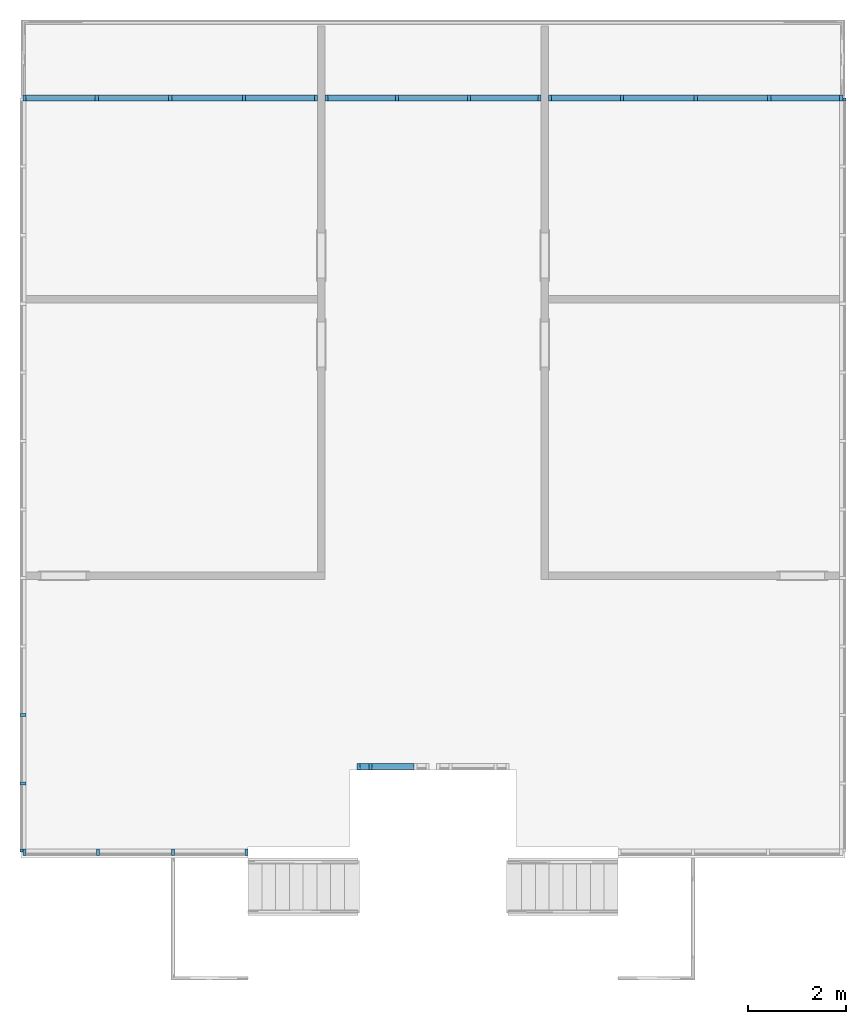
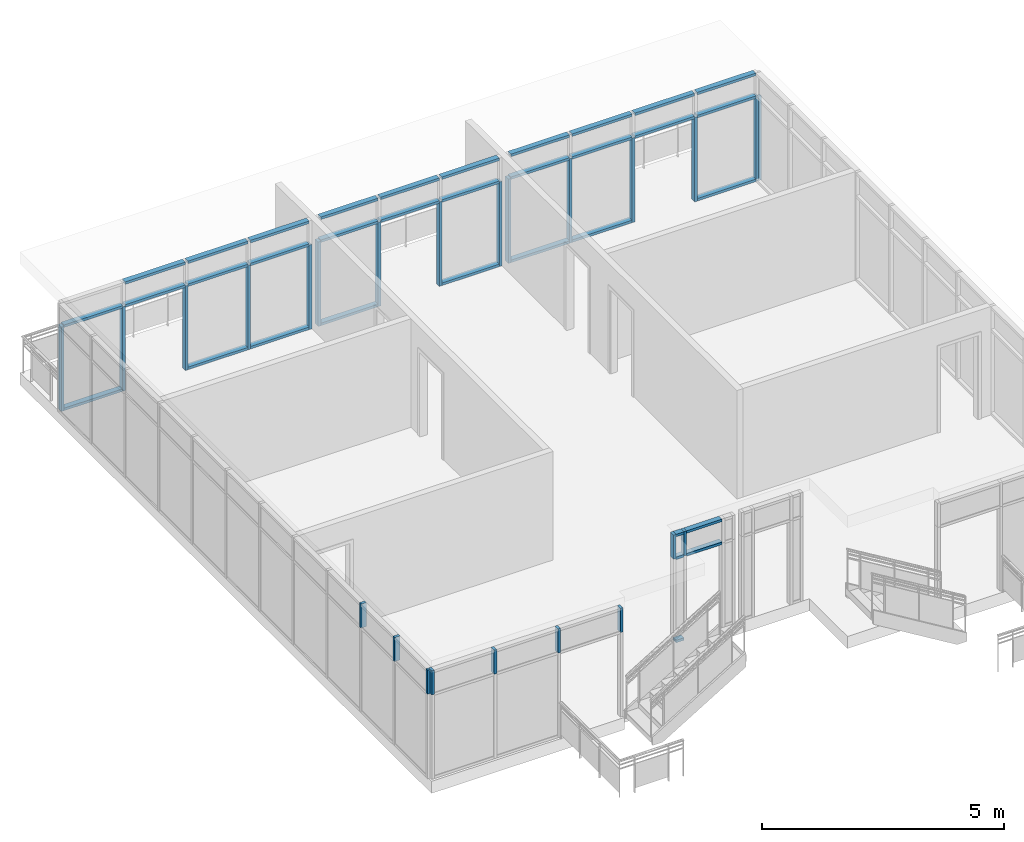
# One storey, part 3 of 11: 58 members, 7 elements without a shape of their own.
"""IFC2X3 building model written with IfcOpenShell, lengths in feet."""

from ifc_helpers import new_model, entity, si_unit, converted_unit, derived_unit, direction, frame, origin, origin_2d_with_axis, place, context, subcontext, project, spatial, rectangle, extrude, source, transform, mapped, material, type_object, type_shapes, element, aggregate, save


model = new_model("IFC2X3")

# Units and contexts
model_context = context("Model", 3, precision=0.0001, world=origin(), true_north=direction((6.12303176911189e-17, 1.0)))
body_context = subcontext(model_context, "Body", "Model", "MODEL_VIEW")
ifc_project = project(units=[converted_unit("LENGTHUNIT", "FOOT", entity("IfcRatioMeasure", 0.3048), si_unit("LENGTHUNIT", "METRE"), dimensions=[1, 0, 0, 0, 0, 0, 0]), converted_unit("AREAUNIT", "SQUARE FOOT", entity("IfcRatioMeasure", 0.09290304), si_unit("AREAUNIT", "SQUARE_METRE"), dimensions=[2, 0, 0, 0, 0, 0, 0]), converted_unit("VOLUMEUNIT", "CUBIC FOOT", entity("IfcRatioMeasure", 0.028316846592), si_unit("VOLUMEUNIT", "CUBIC_METRE"), dimensions=[3, 0, 0, 0, 0, 0, 0]), converted_unit("PLANEANGLEUNIT", "DEGREE", entity("IfcRatioMeasure", 0.0174532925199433), si_unit("PLANEANGLEUNIT", "RADIAN"), dimensions=[0, 0, 0, 0, 0, 0, 0]), si_unit("MASSUNIT", "GRAM", prefix="KILO"), derived_unit("MASSDENSITYUNIT", [(si_unit("MASSUNIT", "GRAM", prefix="KILO"), 1), (si_unit("LENGTHUNIT", "METRE"), -3)]), si_unit("TIMEUNIT", "SECOND"), si_unit("FREQUENCYUNIT", "HERTZ"), si_unit("THERMODYNAMICTEMPERATUREUNIT", "DEGREE_CELSIUS"), derived_unit("THERMALTRANSMITTANCEUNIT", [(si_unit("MASSUNIT", "GRAM", prefix="KILO"), 1), (si_unit("THERMODYNAMICTEMPERATUREUNIT", "KELVIN"), -1), (si_unit("TIMEUNIT", "SECOND"), -3)]), derived_unit("VOLUMETRICFLOWRATEUNIT", [(si_unit("LENGTHUNIT", "METRE"), 3), (si_unit("TIMEUNIT", "SECOND"), -1)]), si_unit("ELECTRICCURRENTUNIT", "AMPERE"), si_unit("ELECTRICVOLTAGEUNIT", "VOLT"), si_unit("POWERUNIT", "WATT"), si_unit("FORCEUNIT", "NEWTON"), si_unit("ILLUMINANCEUNIT", "LUX"), si_unit("LUMINOUSFLUXUNIT", "LUMEN"), si_unit("LUMINOUSINTENSITYUNIT", "CANDELA"), derived_unit("USERDEFINED", [(si_unit("MASSUNIT", "GRAM", prefix="KILO"), -1), (si_unit("LENGTHUNIT", "METRE"), -2), (si_unit("TIMEUNIT", "SECOND"), 3), (si_unit("LUMINOUSFLUXUNIT", "LUMEN"), 1)]), derived_unit("LINEARVELOCITYUNIT", [(si_unit("LENGTHUNIT", "METRE"), 1), (si_unit("TIMEUNIT", "SECOND"), -1)]), si_unit("PRESSUREUNIT", "PASCAL"), derived_unit("USERDEFINED", [(si_unit("LENGTHUNIT", "METRE"), -2), (si_unit("MASSUNIT", "GRAM", prefix="KILO"), 1), (si_unit("TIMEUNIT", "SECOND"), -2)])], contexts=[model_context])

# Site, building, storey
site_placement = place(None, origin())
site = spatial("IfcSite", under=ifc_project, at=site_placement, Name="Default", CompositionType="ELEMENT")
building_placement = place(site_placement, origin())
building = spatial("IfcBuilding", under=site, at=building_placement, CompositionType="ELEMENT")
storey_placement = place(building_placement, frame((0.0, 0.0, 50.0)))
storey = spatial("IfcBuildingStorey", under=building, at=storey_placement, Name="L 9", CompositionType="ELEMENT", Elevation=49.9999999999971)

# Curtain wall, member
curtain_wall_type = type_object("IfcCurtainWallType", Name="Curtain Wall:Storefront 2", PredefinedType="NOTDEFINED")
curtain_wall_1_placement = place(storey_placement, frame((0.0, 0.0, -50.0)))
curtain_wall_1 = element("IfcCurtainWall", 1, at=curtain_wall_1_placement, inside=storey, type_object=curtain_wall_type, Name="Curtain Wall:Storefront 2", ObjectType="Curtain Wall:Storefront 2")
ifc_material = material(Name="Aluminum")
member_type_1 = type_object("IfcMemberType", Name="2.5\" x 5\" rectangular", PredefinedType="MEMBER")
shared_shape_1 = source(origin(), body_context, "Body", "SweptSolid", [
    extrude(rectangle(XDim=0.416666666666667, YDim=0.208333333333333, at=origin_2d_with_axis()), frame((-0.104166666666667, 0.0, -7.0), z_axis=(0.0, 0.0, 1.0), x_axis=(0.0, -1.0, 0.0)), (0.0, 0.0, 1.0), 7.0),
])
type_shapes(member_type_1, [shared_shape_1])
member_1_placement = place(storey_placement, frame((-41.6963748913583, 43.3505254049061, 0.0), z_axis=(0.0, 0.0, -1.0), x_axis=(1.0, 0.0, 0.0)))
member_1 = element("IfcMember", 2, at=member_1_placement, type_object=member_type_1, material=ifc_material, Name="Rectangular Mullion:2.5\" x 5\" rectangular", ObjectType="2.5\" x 5\" rectangular", context=body_context, shape_type="MappedRepresentation", body=[
    mapped(shared_shape_1, transform((0.0, 0.0, 0.0), scale=1.0)),
])

curtain_wall_2_placement = place(storey_placement, frame((0.0, 0.0, -50.0)))
curtain_wall_2 = element("IfcCurtainWall", 3, at=curtain_wall_2_placement, inside=storey, type_object=curtain_wall_type, Name="Curtain Wall:Storefront 2", ObjectType="Curtain Wall:Storefront 2")
member_2_placement = place(storey_placement, frame((-6.65849610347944, 43.350525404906, 0.0), z_axis=(0.0, 0.0, -1.0), x_axis=(1.0, 0.0, 0.0)))
member_2 = element("IfcMember", 4, at=member_2_placement, type_object=member_type_1, material=ifc_material, Name="Rectangular Mullion:2.5\" x 5\" rectangular", ObjectType="2.5\" x 5\" rectangular", context=body_context, shape_type="MappedRepresentation", body=[
    mapped(shared_shape_1, transform((0.0, 0.0, 0.0), scale=1.0)),
])

curtain_wall_3_placement = place(storey_placement, frame((0.0, 0.0, -50.0)))
curtain_wall_3 = element("IfcCurtainWall", 5, at=curtain_wall_3_placement, inside=storey, type_object=curtain_wall_type, Name="Curtain Wall:Storefront 2", ObjectType="Curtain Wall:Storefront 2")
member_3_placement = place(storey_placement, frame((-26.7872839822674, 43.350525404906, 0.0), z_axis=(0.0, 0.0, -1.0), x_axis=(1.0, 0.0, 0.0)))
member_3 = element("IfcMember", 6, at=member_3_placement, type_object=member_type_1, material=ifc_material, Name="Rectangular Mullion:2.5\" x 5\" rectangular", ObjectType="2.5\" x 5\" rectangular", context=body_context, shape_type="MappedRepresentation", body=[
    mapped(shared_shape_1, transform((0.0, 0.0, 0.0), scale=1.0)),
])

curtain_wall_4_placement = place(storey_placement, frame((0.0, 0.0, -50.0)))
curtain_wall_4 = element("IfcCurtainWall", 7, at=curtain_wall_4_placement, inside=storey, type_object=curtain_wall_type, Name="Curtain Wall:Storefront 2", ObjectType="Curtain Wall:Storefront 2")
member_type_2 = type_object("IfcMemberType", Name="2.5\" x 5\" rectangular", PredefinedType="MEMBER")
shared_shape_2 = source(origin(), body_context, "Body", "SweptSolid", [
    extrude(rectangle(XDim=0.416666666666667, YDim=0.208333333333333, at=origin_2d_with_axis()), frame((-0.104166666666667, 0.0, -2.0), z_axis=(0.0, 0.0, 1.0), x_axis=(0.0, -1.0, 0.0)), (0.0, 0.0, 1.0), 2.0),
])
type_shapes(member_type_2, [shared_shape_2])
member_4_placement = place(storey_placement, frame((-61.3251627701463, -6.94114126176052, 7.0), z_axis=(0.0, 0.0, -1.0), x_axis=(-1.0, 0.0, 0.0)))
member_4 = element("IfcMember", 8, at=member_4_placement, type_object=member_type_2, material=ifc_material, Name="Rectangular Mullion:2.5\" x 5\" rectangular", ObjectType="2.5\" x 5\" rectangular", context=body_context, shape_type="MappedRepresentation", body=[
    mapped(shared_shape_2, transform((0.0, 0.0, 0.0), scale=1.0)),
])

curtain_wall_5_placement = place(storey_placement, frame((0.0, 0.0, -50.0)))
curtain_wall_5 = element("IfcCurtainWall", 9, at=curtain_wall_5_placement, inside=storey, type_object=curtain_wall_type, Name="Curtain Wall:Storefront 2", ObjectType="Curtain Wall:Storefront 2")
member_5_placement = place(storey_placement, frame((-39.0751627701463, -1.23280792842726, 7.0), z_axis=(0.0, 0.0, -1.0), x_axis=(-1.0, 0.0, 0.0)))
member_5 = element("IfcMember", 10, at=member_5_placement, type_object=member_type_2, material=ifc_material, Name="Rectangular Mullion:2.5\" x 5\" rectangular", ObjectType="2.5\" x 5\" rectangular", context=body_context, shape_type="MappedRepresentation", body=[
    mapped(shared_shape_2, transform((0.0, 0.0, 0.0), scale=1.0)),
])

# Member
member_type_3 = type_object("IfcMemberType", Name="2.5\" x 5\" rectangular", PredefinedType="MEMBER")
shared_shape_3 = source(origin(), body_context, "Body", "SweptSolid", [
    extrude(rectangle(XDim=0.416666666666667, YDim=0.208333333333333, at=origin_2d_with_axis()), frame((-0.104166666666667, 0.0, -2.0), z_axis=(0.0, 0.0, 1.0), x_axis=(0.0, -1.0, 0.0)), (0.0, 0.0, 1.0), 2.0),
])
type_shapes(member_type_3, [shared_shape_3])
member_6_placement = place(storey_placement, frame((-46.3251627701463, -6.94114126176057, 9.0)))
member_6 = element("IfcMember", 11, at=member_6_placement, type_object=member_type_3, material=ifc_material, Name="Rectangular Mullion:2.5\" x 5\" rectangular", ObjectType="2.5\" x 5\" rectangular", context=body_context, shape_type="MappedRepresentation", body=[
    mapped(shared_shape_3, transform((0.0, 0.0, 0.0), scale=1.0)),
])

# Curtain wall, member
curtain_wall_6_placement = place(storey_placement, frame((0.0, 0.0, -50.0)))
curtain_wall_6 = element("IfcCurtainWall", 12, at=curtain_wall_6_placement, inside=storey, type_object=curtain_wall_type, Name="Curtain Wall:Storefront 2", ObjectType="Curtain Wall:Storefront 2")
member_7_placement = place(storey_placement, frame((-61.3251627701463, -6.94114126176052, 9.0), z_axis=(0.0, 0.0, 1.0), x_axis=(0.0, -1.0, 0.0)))
member_7 = element("IfcMember", 13, at=member_7_placement, type_object=member_type_3, material=ifc_material, Name="Rectangular Mullion:2.5\" x 5\" rectangular", ObjectType="2.5\" x 5\" rectangular", context=body_context, shape_type="MappedRepresentation", body=[
    mapped(shared_shape_3, transform((0.0, 0.0, 0.0), scale=1.0)),
])

# Member
member_type_4 = type_object("IfcMemberType", Name="2.5\" x 5\" rectangular", PredefinedType="MEMBER")
shared_shape_4 = source(origin(), body_context, "Body", "SweptSolid", [
    extrude(rectangle(XDim=0.416666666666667, YDim=0.208333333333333, at=origin_2d_with_axis()), frame((-0.104166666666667, 0.0, -7.0), z_axis=(0.0, 0.0, 1.0), x_axis=(0.0, -1.0, 0.0)), (0.0, 0.0, 1.0), 7.0),
])
type_shapes(member_type_4, [shared_shape_4])
member_8_placement = place(storey_placement, frame((-61.3251627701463, 43.3505254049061, 7.0), z_axis=(0.0, 0.0, 1.0), x_axis=(-1.0, 0.0, 0.0)))
member_8 = element("IfcMember", 14, at=member_8_placement, type_object=member_type_4, material=ifc_material, Name="Rectangular Mullion:2.5\" x 5\" rectangular", ObjectType="2.5\" x 5\" rectangular", context=body_context, shape_type="MappedRepresentation", body=[
    mapped(shared_shape_4, transform((0.0, 0.0, 0.0), scale=1.0)),
])

# Curtain wall, member
curtain_wall_7_placement = place(storey_placement, frame((0.0, 0.0, -50.0)))
curtain_wall_7 = element("IfcCurtainWall", 15, at=curtain_wall_7_placement, inside=storey, type_object=curtain_wall_type, Name="Curtain Wall:Storefront 2", ObjectType="Curtain Wall:Storefront 2")
member_9_placement = place(storey_placement, frame((-6.65849610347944, 43.350525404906, 7.0), z_axis=(0.0, 0.0, 1.0), x_axis=(0.0, 1.0, 0.0)))
member_9 = element("IfcMember", 16, at=member_9_placement, type_object=member_type_4, material=ifc_material, Name="Rectangular Mullion:2.5\" x 5\" rectangular", ObjectType="2.5\" x 5\" rectangular", context=body_context, shape_type="MappedRepresentation", body=[
    mapped(shared_shape_4, transform((0.0, 0.0, 0.0), scale=1.0)),
])
aggregate(curtain_wall_7, [member_9])

# Member
member_10_placement = place(storey_placement, frame((-26.2872839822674, 43.350525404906, 7.0), z_axis=(0.0, 0.0, 1.0), x_axis=(-1.0, 0.0, 0.0)))
member_10 = element("IfcMember", 17, at=member_10_placement, type_object=member_type_4, material=ifc_material, Name="Rectangular Mullion:2.5\" x 5\" rectangular", ObjectType="2.5\" x 5\" rectangular", context=body_context, shape_type="MappedRepresentation", body=[
    mapped(shared_shape_4, transform((0.0, 0.0, 0.0), scale=1.0)),
])

member_11_placement = place(storey_placement, frame((-41.1963748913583, 43.3505254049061, 7.0), z_axis=(0.0, 0.0, 1.0), x_axis=(-1.0, 0.0, 0.0)))
member_11 = element("IfcMember", 18, at=member_11_placement, type_object=member_type_4, material=ifc_material, Name="Rectangular Mullion:2.5\" x 5\" rectangular", ObjectType="2.5\" x 5\" rectangular", context=body_context, shape_type="MappedRepresentation", body=[
    mapped(shared_shape_4, transform((0.0, 0.0, 0.0), scale=1.0)),
])

member_type_5 = type_object("IfcMemberType", Name="2.5\" x 5\" rectangular", PredefinedType="MEMBER")
shared_shape_5 = source(origin(), body_context, "Body", "SweptSolid", [
    extrude(rectangle(XDim=0.416666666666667, YDim=0.208333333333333, at=origin_2d_with_axis()), frame((0.0, 0.0, -7.0), z_axis=(0.0, 0.0, 1.0), x_axis=(0.0, -1.0, 0.0)), (0.0, 0.0, 1.0), 7.0),
])
type_shapes(member_type_5, [shared_shape_5])
member_12_placement = place(storey_placement, frame((-56.4179658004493, 43.3505254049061, 0.0), z_axis=(0.0, 0.0, -1.0), x_axis=(1.0, 0.0, 0.0)))
member_12 = element("IfcMember", 19, at=member_12_placement, type_object=member_type_5, material=ifc_material, Name="Rectangular Mullion:2.5\" x 5\" rectangular", ObjectType="2.5\" x 5\" rectangular", context=body_context, shape_type="MappedRepresentation", body=[
    mapped(shared_shape_5, transform((0.0, 0.0, 0.0), scale=1.0)),
])

member_13_placement = place(storey_placement, frame((-51.5107688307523, 43.3505254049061, 0.0), z_axis=(0.0, 0.0, -1.0), x_axis=(1.0, 0.0, 0.0)))
member_13 = element("IfcMember", 20, at=member_13_placement, type_object=member_type_5, material=ifc_material, Name="Rectangular Mullion:2.5\" x 5\" rectangular", ObjectType="2.5\" x 5\" rectangular", context=body_context, shape_type="MappedRepresentation", body=[
    mapped(shared_shape_5, transform((0.0, 0.0, 0.0), scale=1.0)),
])

member_14_placement = place(storey_placement, frame((-46.6035718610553, 43.3505254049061, 0.0), z_axis=(0.0, 0.0, -1.0), x_axis=(1.0, 0.0, 0.0)))
member_14 = element("IfcMember", 21, at=member_14_placement, type_object=member_type_5, material=ifc_material, Name="Rectangular Mullion:2.5\" x 5\" rectangular", ObjectType="2.5\" x 5\" rectangular", context=body_context, shape_type="MappedRepresentation", body=[
    mapped(shared_shape_5, transform((0.0, 0.0, 0.0), scale=1.0)),
])

member_15_placement = place(storey_placement, frame((-21.3800870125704, 43.350525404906, 0.0), z_axis=(0.0, 0.0, -1.0), x_axis=(1.0, 0.0, 0.0)))
member_15 = element("IfcMember", 22, at=member_15_placement, type_object=member_type_5, material=ifc_material, Name="Rectangular Mullion:2.5\" x 5\" rectangular", ObjectType="2.5\" x 5\" rectangular", context=body_context, shape_type="MappedRepresentation", body=[
    mapped(shared_shape_5, transform((0.0, 0.0, 0.0), scale=1.0)),
])

member_16_placement = place(storey_placement, frame((-16.4728900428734, 43.350525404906, 0.0), z_axis=(0.0, 0.0, -1.0), x_axis=(1.0, 0.0, 0.0)))
member_16 = element("IfcMember", 23, at=member_16_placement, type_object=member_type_5, material=ifc_material, Name="Rectangular Mullion:2.5\" x 5\" rectangular", ObjectType="2.5\" x 5\" rectangular", context=body_context, shape_type="MappedRepresentation", body=[
    mapped(shared_shape_5, transform((0.0, 0.0, 0.0), scale=1.0)),
])

member_17_placement = place(storey_placement, frame((-11.5656930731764, 43.350525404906, 0.0), z_axis=(0.0, 0.0, -1.0), x_axis=(1.0, 0.0, 0.0)))
member_17 = element("IfcMember", 24, at=member_17_placement, type_object=member_type_5, material=ifc_material, Name="Rectangular Mullion:2.5\" x 5\" rectangular", ObjectType="2.5\" x 5\" rectangular", context=body_context, shape_type="MappedRepresentation", body=[
    mapped(shared_shape_5, transform((0.0, 0.0, 0.0), scale=1.0)),
])

member_18_placement = place(storey_placement, frame((-36.393344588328, 43.3505254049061, 0.0), z_axis=(0.0, 0.0, -1.0), x_axis=(1.0, 0.0, 0.0)))
member_18 = element("IfcMember", 25, at=member_18_placement, type_object=member_type_5, material=ifc_material, Name="Rectangular Mullion:2.5\" x 5\" rectangular", ObjectType="2.5\" x 5\" rectangular", context=body_context, shape_type="MappedRepresentation", body=[
    mapped(shared_shape_5, transform((0.0, 0.0, 0.0), scale=1.0)),
])

member_19_placement = place(storey_placement, frame((-31.5903142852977, 43.350525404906, 0.0), z_axis=(0.0, 0.0, -1.0), x_axis=(1.0, 0.0, 0.0)))
member_19 = element("IfcMember", 26, at=member_19_placement, type_object=member_type_5, material=ifc_material, Name="Rectangular Mullion:2.5\" x 5\" rectangular", ObjectType="2.5\" x 5\" rectangular", context=body_context, shape_type="MappedRepresentation", body=[
    mapped(shared_shape_5, transform((0.0, 0.0, 0.0), scale=1.0)),
])

member_type_6 = type_object("IfcMemberType", Name="2.5\" x 5\" rectangular", PredefinedType="MEMBER")
shared_shape_6 = source(origin(), body_context, "Body", "SweptSolid", [
    extrude(rectangle(XDim=0.416666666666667, YDim=0.208333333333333, at=origin_2d_with_axis()), frame((0.0, 0.0, -2.0), z_axis=(0.0, 0.0, 1.0), x_axis=(0.0, -1.0, 0.0)), (0.0, 0.0, 1.0), 2.0),
])
type_shapes(member_type_6, [shared_shape_6])
member_20_placement = place(storey_placement, frame((-51.3251627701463, -6.94114126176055, 7.0), z_axis=(0.0, 0.0, -1.0), x_axis=(-1.0, 0.0, 0.0)))
member_20 = element("IfcMember", 27, at=member_20_placement, type_object=member_type_6, material=ifc_material, Name="Rectangular Mullion:2.5\" x 5\" rectangular", ObjectType="2.5\" x 5\" rectangular", context=body_context, shape_type="MappedRepresentation", body=[
    mapped(shared_shape_6, transform((0.0, 0.0, 0.0), scale=1.0)),
])

member_21_placement = place(storey_placement, frame((-56.3251627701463, -6.94114126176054, 7.0), z_axis=(0.0, 0.0, -1.0), x_axis=(-1.0, 0.0, 0.0)))
member_21 = element("IfcMember", 28, at=member_21_placement, type_object=member_type_6, material=ifc_material, Name="Rectangular Mullion:2.5\" x 5\" rectangular", ObjectType="2.5\" x 5\" rectangular", context=body_context, shape_type="MappedRepresentation", body=[
    mapped(shared_shape_6, transform((0.0, 0.0, 0.0), scale=1.0)),
])

aggregate(curtain_wall_4, [member_4, member_6, member_20, member_21])

member_22_placement = place(storey_placement, frame((-38.1584961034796, -1.23280792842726, 7.0), z_axis=(0.0, 0.0, -1.0), x_axis=(-1.0, 0.0, 0.0)))
member_22 = element("IfcMember", 29, at=member_22_placement, type_object=member_type_6, material=ifc_material, Name="Rectangular Mullion:2.5\" x 5\" rectangular", ObjectType="2.5\" x 5\" rectangular", context=body_context, shape_type="MappedRepresentation", body=[
    mapped(shared_shape_6, transform((0.0, 0.0, 0.0), scale=1.0)),
])

member_23_placement = place(storey_placement, frame((-61.3251627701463, -2.36917156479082, 7.0), z_axis=(0.0, 0.0, -1.0), x_axis=(0.0, 1.0, 0.0)))
member_23 = element("IfcMember", 30, at=member_23_placement, type_object=member_type_6, material=ifc_material, Name="Rectangular Mullion:2.5\" x 5\" rectangular", ObjectType="2.5\" x 5\" rectangular", context=body_context, shape_type="MappedRepresentation", body=[
    mapped(shared_shape_6, transform((0.0, 0.0, 0.0), scale=1.0)),
])

member_24_placement = place(storey_placement, frame((-61.3251627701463, 2.20279813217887, 7.0), z_axis=(0.0, 0.0, -1.0), x_axis=(0.0, 1.0, 0.0)))
member_24 = element("IfcMember", 31, at=member_24_placement, type_object=member_type_6, material=ifc_material, Name="Rectangular Mullion:2.5\" x 5\" rectangular", ObjectType="2.5\" x 5\" rectangular", context=body_context, shape_type="MappedRepresentation", body=[
    mapped(shared_shape_6, transform((0.0, 0.0, 0.0), scale=1.0)),
])

aggregate(curtain_wall_6, [member_7, member_23, member_24])

member_type_7 = type_object("IfcMemberType", Name="2.5\" x 5\" rectangular", PredefinedType="MEMBER")
shared_shape_7 = source(origin(), body_context, "Body", "SweptSolid", [
    extrude(rectangle(XDim=0.416666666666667, YDim=0.208333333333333, at=origin_2d_with_axis()), frame((-0.104166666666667, 0.0, -0.604166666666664), z_axis=(0.0, 0.0, 1.0), x_axis=(0.0, -1.0, 0.0)), (0.0, 0.0, 1.0), 0.604166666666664),
])
type_shapes(member_type_7, [shared_shape_7])
member_25_placement = place(storey_placement, frame((-38.8668294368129, -1.23280792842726, 9.0), z_axis=(-1.0, 0.0, 0.0), x_axis=(0.0, 0.0, 1.0)))
member_25 = element("IfcMember", 32, at=member_25_placement, type_object=member_type_7, material=ifc_material, Name="Rectangular Mullion:2.5\" x 5\" rectangular", ObjectType="2.5\" x 5\" rectangular", context=body_context, shape_type="MappedRepresentation", body=[
    mapped(shared_shape_7, transform((0.0, 0.0, 0.0), scale=1.0)),
])

member_type_8 = type_object("IfcMemberType", Name="2.5\" x 5\" rectangular", PredefinedType="MEMBER")
shared_shape_8 = source(origin(), body_context, "Body", "SweptSolid", [
    extrude(rectangle(XDim=0.416666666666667, YDim=0.208333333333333, at=origin_2d_with_axis()), frame((-0.104166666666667, 0.0, -0.604166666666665), z_axis=(0.0, 0.0, 1.0), x_axis=(0.0, -1.0, 0.0)), (0.0, 0.0, 1.0), 0.604166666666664),
])
type_shapes(member_type_8, [shared_shape_8])
member_26_placement = place(storey_placement, frame((-38.2626627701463, -1.23280792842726, 0.0), z_axis=(1.0, 0.0, 0.0), x_axis=(0.0, 0.0, -1.0)))
member_26 = element("IfcMember", 33, at=member_26_placement, type_object=member_type_8, material=ifc_material, Name="Rectangular Mullion:2.5\" x 5\" rectangular", ObjectType="2.5\" x 5\" rectangular", context=body_context, shape_type="MappedRepresentation", body=[
    mapped(shared_shape_8, transform((0.0, 0.0, 0.0), scale=1.0)),
])

member_type_9 = type_object("IfcMemberType", Name="2.5\" x 5\" rectangular", PredefinedType="MEMBER")
shared_shape_9 = source(origin(), body_context, "Body", "SweptSolid", [
    extrude(rectangle(XDim=0.416666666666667, YDim=0.208333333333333, at=origin_2d_with_axis()), frame((0.0, 0.0, -0.604166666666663), z_axis=(0.0, 0.0, 1.0), x_axis=(0.0, -1.0, 0.0)), (0.0, 0.0, 1.0), 0.604166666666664),
])
type_shapes(member_type_9, [shared_shape_9])
member_27_placement = place(storey_placement, frame((-38.8668294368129, -1.23280792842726, 7.0), z_axis=(-1.0, 0.0, 0.0), x_axis=(0.0, 0.0, 1.0)))
member_27 = element("IfcMember", 34, at=member_27_placement, type_object=member_type_9, material=ifc_material, Name="Rectangular Mullion:2.5\" x 5\" rectangular", ObjectType="2.5\" x 5\" rectangular", context=body_context, shape_type="MappedRepresentation", body=[
    mapped(shared_shape_9, transform((0.0, 0.0, 0.0), scale=1.0)),
])

member_type_10 = type_object("IfcMemberType", Name="2.5\" x 5\" rectangular", PredefinedType="MEMBER")
shared_shape_10 = source(origin(), body_context, "Body", "SweptSolid", [
    extrude(rectangle(XDim=0.416666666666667, YDim=0.208333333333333, at=origin_2d_with_axis()), frame((0.0, 0.0, -2.79166666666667), z_axis=(0.0, 0.0, 1.0), x_axis=(0.0, -1.0, 0.0)), (0.0, 0.0, 1.0), 2.79166666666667),
])
type_shapes(member_type_10, [shared_shape_10])
member_28_placement = place(storey_placement, frame((-38.0543294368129, -1.23280792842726, 7.0), z_axis=(-1.0, 0.0, 0.0), x_axis=(0.0, 0.0, 1.0)))
member_28 = element("IfcMember", 35, at=member_28_placement, type_object=member_type_10, material=ifc_material, Name="Rectangular Mullion:2.5\" x 5\" rectangular", ObjectType="2.5\" x 5\" rectangular", context=body_context, shape_type="MappedRepresentation", body=[
    mapped(shared_shape_10, transform((0.0, 0.0, 0.0), scale=1.0)),
])

member_type_11 = type_object("IfcMemberType", Name="2.5\" x 5\" rectangular", PredefinedType="MEMBER")
shared_shape_11 = source(origin(), body_context, "Body", "SweptSolid", [
    extrude(rectangle(XDim=0.416666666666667, YDim=0.208333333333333, at=origin_2d_with_axis()), frame((-0.104166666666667, 0.0, -2.79166666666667), z_axis=(0.0, 0.0, 1.0), x_axis=(0.0, -1.0, 0.0)), (0.0, 0.0, 1.0), 2.79166666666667),
])
type_shapes(member_type_11, [shared_shape_11])
member_29_placement = place(storey_placement, frame((-38.0543294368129, -1.23280792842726, 9.0), z_axis=(-1.0, 0.0, 0.0), x_axis=(0.0, 0.0, 1.0)))
member_29 = element("IfcMember", 36, at=member_29_placement, type_object=member_type_11, material=ifc_material, Name="Rectangular Mullion:2.5\" x 5\" rectangular", ObjectType="2.5\" x 5\" rectangular", context=body_context, shape_type="MappedRepresentation", body=[
    mapped(shared_shape_11, transform((0.0, 0.0, 0.0), scale=1.0)),
])

aggregate(curtain_wall_5, [member_25, member_5, member_28, member_29, member_26, member_27, member_22])

member_type_12 = type_object("IfcMemberType", Name="2.5\" x 5\" rectangular", PredefinedType="MEMBER")
shared_shape_12 = source(origin(), body_context, "Body", "SweptSolid", [
    extrude(rectangle(XDim=0.416666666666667, YDim=0.208333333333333, at=origin_2d_with_axis()), frame((-0.104166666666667, 0.0, -4.49053030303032), z_axis=(0.0, 0.0, 1.0), x_axis=(0.0, -1.0, 0.0)), (0.0, 0.0, 1.0), 4.49053030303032),
])
type_shapes(member_type_12, [shared_shape_12])
member_30_placement = place(storey_placement, frame((-26.9956173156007, 43.350525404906, 9.0), z_axis=(1.0, 0.0, 0.0), x_axis=(0.0, 0.0, 1.0)))
member_30 = element("IfcMember", 37, at=member_30_placement, type_object=member_type_12, material=ifc_material, Name="Rectangular Mullion:2.5\" x 5\" rectangular", ObjectType="2.5\" x 5\" rectangular", context=body_context, shape_type="MappedRepresentation", body=[
    mapped(shared_shape_12, transform((0.0, 0.0, 0.0), scale=1.0)),
])

member_31_placement = place(storey_placement, frame((-36.4975112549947, 43.3505254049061, 9.0), z_axis=(1.0, 0.0, 0.0), x_axis=(0.0, 0.0, 1.0)))
member_31 = element("IfcMember", 38, at=member_31_placement, type_object=member_type_12, material=ifc_material, Name="Rectangular Mullion:2.5\" x 5\" rectangular", ObjectType="2.5\" x 5\" rectangular", context=body_context, shape_type="MappedRepresentation", body=[
    mapped(shared_shape_12, transform((0.0, 0.0, 0.0), scale=1.0)),
])

member_type_13 = type_object("IfcMemberType", Name="2.5\" x 5\" rectangular", PredefinedType="MEMBER")
shared_shape_13 = source(origin(), body_context, "Body", "SweptSolid", [
    extrude(rectangle(XDim=0.416666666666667, YDim=0.208333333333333, at=origin_2d_with_axis()), frame((-0.104166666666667, 0.0, -4.59469696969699), z_axis=(0.0, 0.0, 1.0), x_axis=(0.0, -1.0, 0.0)), (0.0, 0.0, 1.0), 4.59469696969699),
])
type_shapes(member_type_13, [shared_shape_13])
member_32_placement = place(storey_placement, frame((-41.9047082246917, 43.3505254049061, 9.0), z_axis=(1.0, 0.0, 0.0), x_axis=(0.0, 0.0, 1.0)))
member_32 = element("IfcMember", 39, at=member_32_placement, type_object=member_type_13, material=ifc_material, Name="Rectangular Mullion:2.5\" x 5\" rectangular", ObjectType="2.5\" x 5\" rectangular", context=body_context, shape_type="MappedRepresentation", body=[
    mapped(shared_shape_13, transform((0.0, 0.0, 0.0), scale=1.0)),
])

member_33_placement = place(storey_placement, frame((-6.86682943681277, 43.350525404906, 9.0), z_axis=(1.0, 0.0, 0.0), x_axis=(0.0, 0.0, 1.0)))
member_33 = element("IfcMember", 40, at=member_33_placement, type_object=member_type_13, material=ifc_material, Name="Rectangular Mullion:2.5\" x 5\" rectangular", ObjectType="2.5\" x 5\" rectangular", context=body_context, shape_type="MappedRepresentation", body=[
    mapped(shared_shape_13, transform((0.0, 0.0, 0.0), scale=1.0)),
])

member_34_placement = place(storey_placement, frame((-21.4842536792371, 43.350525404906, 9.0), z_axis=(1.0, 0.0, 0.0), x_axis=(0.0, 0.0, 1.0)))
member_34 = element("IfcMember", 41, at=member_34_placement, type_object=member_type_13, material=ifc_material, Name="Rectangular Mullion:2.5\" x 5\" rectangular", ObjectType="2.5\" x 5\" rectangular", context=body_context, shape_type="MappedRepresentation", body=[
    mapped(shared_shape_13, transform((0.0, 0.0, 0.0), scale=1.0)),
])

member_35_placement = place(storey_placement, frame((-31.6944809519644, 43.350525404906, 9.0), z_axis=(1.0, 0.0, 0.0), x_axis=(0.0, 0.0, 1.0)))
member_35 = element("IfcMember", 42, at=member_35_placement, type_object=member_type_13, material=ifc_material, Name="Rectangular Mullion:2.5\" x 5\" rectangular", ObjectType="2.5\" x 5\" rectangular", context=body_context, shape_type="MappedRepresentation", body=[
    mapped(shared_shape_13, transform((0.0, 0.0, 0.0), scale=1.0)),
])

member_type_14 = type_object("IfcMemberType", Name="2.5\" x 5\" rectangular", PredefinedType="MEMBER")
shared_shape_14 = source(origin(), body_context, "Body", "SweptSolid", [
    extrude(rectangle(XDim=0.416666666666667, YDim=0.208333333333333, at=origin_2d_with_axis()), frame((-0.104166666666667, 0.0, -4.49053030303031), z_axis=(0.0, 0.0, 1.0), x_axis=(0.0, -1.0, 0.0)), (0.0, 0.0, 1.0), 4.49053030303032),
])
type_shapes(member_type_14, [shared_shape_14])
member_36_placement = place(storey_placement, frame((-40.988041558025, 43.3505254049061, 0.0), z_axis=(-1.0, 0.0, 0.0), x_axis=(0.0, 0.0, -1.0)))
member_36 = element("IfcMember", 43, at=member_36_placement, type_object=member_type_14, material=ifc_material, Name="Rectangular Mullion:2.5\" x 5\" rectangular", ObjectType="2.5\" x 5\" rectangular", context=body_context, shape_type="MappedRepresentation", body=[
    mapped(shared_shape_14, transform((0.0, 0.0, 0.0), scale=1.0)),
])

member_37_placement = place(storey_placement, frame((-31.486147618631, 43.350525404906, 0.0), z_axis=(-1.0, 0.0, 0.0), x_axis=(0.0, 0.0, -1.0)))
member_37 = element("IfcMember", 44, at=member_37_placement, type_object=member_type_14, material=ifc_material, Name="Rectangular Mullion:2.5\" x 5\" rectangular", ObjectType="2.5\" x 5\" rectangular", context=body_context, shape_type="MappedRepresentation", body=[
    mapped(shared_shape_14, transform((0.0, 0.0, 0.0), scale=1.0)),
])

member_type_15 = type_object("IfcMemberType", Name="2.5\" x 5\" rectangular", PredefinedType="MEMBER")
shared_shape_15 = source(origin(), body_context, "Body", "SweptSolid", [
    extrude(rectangle(XDim=0.416666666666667, YDim=0.208333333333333, at=origin_2d_with_axis()), frame((0.0, 0.0, -4.49053030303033), z_axis=(0.0, 0.0, 1.0), x_axis=(0.0, -1.0, 0.0)), (0.0, 0.0, 1.0), 4.49053030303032),
])
type_shapes(member_type_15, [shared_shape_15])
member_38_placement = place(storey_placement, frame((-36.4975112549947, 43.3505254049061, 7.0), z_axis=(1.0, 0.0, 0.0), x_axis=(0.0, 0.0, 1.0)))
member_38 = element("IfcMember", 45, at=member_38_placement, type_object=member_type_15, material=ifc_material, Name="Rectangular Mullion:2.5\" x 5\" rectangular", ObjectType="2.5\" x 5\" rectangular", context=body_context, shape_type="MappedRepresentation", body=[
    mapped(shared_shape_15, transform((0.0, 0.0, 0.0), scale=1.0)),
])

member_39_placement = place(storey_placement, frame((-26.9956173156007, 43.350525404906, 7.0), z_axis=(1.0, 0.0, 0.0), x_axis=(0.0, 0.0, 1.0)))
member_39 = element("IfcMember", 46, at=member_39_placement, type_object=member_type_15, material=ifc_material, Name="Rectangular Mullion:2.5\" x 5\" rectangular", ObjectType="2.5\" x 5\" rectangular", context=body_context, shape_type="MappedRepresentation", body=[
    mapped(shared_shape_15, transform((0.0, 0.0, 0.0), scale=1.0)),
])

member_type_16 = type_object("IfcMemberType", Name="2.5\" x 5\" rectangular", PredefinedType="MEMBER")
shared_shape_16 = source(origin(), body_context, "Body", "SweptSolid", [
    extrude(rectangle(XDim=0.416666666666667, YDim=0.208333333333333, at=origin_2d_with_axis()), frame((0.0, 0.0, -4.59469696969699), z_axis=(0.0, 0.0, 1.0), x_axis=(0.0, -1.0, 0.0)), (0.0, 0.0, 1.0), 4.59469696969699),
])
type_shapes(member_type_16, [shared_shape_16])
member_40_placement = place(storey_placement, frame((-56.522132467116, 43.3505254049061, 7.0), z_axis=(1.0, 0.0, 0.0), x_axis=(0.0, 0.0, 1.0)))
member_40 = element("IfcMember", 47, at=member_40_placement, type_object=member_type_16, material=ifc_material, Name="Rectangular Mullion:2.5\" x 5\" rectangular", ObjectType="2.5\" x 5\" rectangular", context=body_context, shape_type="MappedRepresentation", body=[
    mapped(shared_shape_16, transform((0.0, 0.0, 0.0), scale=1.0)),
])

member_41_placement = place(storey_placement, frame((-41.9047082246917, 43.3505254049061, 7.0), z_axis=(1.0, 0.0, 0.0), x_axis=(0.0, 0.0, 1.0)))
member_41 = element("IfcMember", 48, at=member_41_placement, type_object=member_type_16, material=ifc_material, Name="Rectangular Mullion:2.5\" x 5\" rectangular", ObjectType="2.5\" x 5\" rectangular", context=body_context, shape_type="MappedRepresentation", body=[
    mapped(shared_shape_16, transform((0.0, 0.0, 0.0), scale=1.0)),
])

member_42_placement = place(storey_placement, frame((-21.4842536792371, 43.350525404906, 7.0), z_axis=(1.0, 0.0, 0.0), x_axis=(0.0, 0.0, 1.0)))
member_42 = element("IfcMember", 49, at=member_42_placement, type_object=member_type_16, material=ifc_material, Name="Rectangular Mullion:2.5\" x 5\" rectangular", ObjectType="2.5\" x 5\" rectangular", context=body_context, shape_type="MappedRepresentation", body=[
    mapped(shared_shape_16, transform((0.0, 0.0, 0.0), scale=1.0)),
])

member_43_placement = place(storey_placement, frame((-6.86682943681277, 43.350525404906, 7.0), z_axis=(1.0, 0.0, 0.0), x_axis=(0.0, 0.0, 1.0)))
member_43 = element("IfcMember", 50, at=member_43_placement, type_object=member_type_16, material=ifc_material, Name="Rectangular Mullion:2.5\" x 5\" rectangular", ObjectType="2.5\" x 5\" rectangular", context=body_context, shape_type="MappedRepresentation", body=[
    mapped(shared_shape_16, transform((0.0, 0.0, 0.0), scale=1.0)),
])

member_44_placement = place(storey_placement, frame((-31.6944809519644, 43.350525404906, 7.0), z_axis=(1.0, 0.0, 0.0), x_axis=(0.0, 0.0, 1.0)))
member_44 = element("IfcMember", 51, at=member_44_placement, type_object=member_type_16, material=ifc_material, Name="Rectangular Mullion:2.5\" x 5\" rectangular", ObjectType="2.5\" x 5\" rectangular", context=body_context, shape_type="MappedRepresentation", body=[
    mapped(shared_shape_16, transform((0.0, 0.0, 0.0), scale=1.0)),
])

aggregate(curtain_wall_3, [member_30, member_31, member_35, member_36, member_37, member_3, member_11, member_38, member_44, member_39, member_18, member_19])

member_type_17 = type_object("IfcMemberType", Name="2.5\" x 5\" rectangular", PredefinedType="MEMBER")
shared_shape_17 = source(origin(), body_context, "Body", "SweptSolid", [
    extrude(rectangle(XDim=0.416666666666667, YDim=0.208333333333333, at=origin_2d_with_axis()), frame((-0.104166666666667, 0.0, -4.69886363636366), z_axis=(0.0, 0.0, 1.0), x_axis=(0.0, -1.0, 0.0)), (0.0, 0.0, 1.0), 4.69886363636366),
])
type_shapes(member_type_17, [shared_shape_17])
member_45_placement = place(storey_placement, frame((-51.614935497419, 43.3505254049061, 9.0), z_axis=(1.0, 0.0, 0.0), x_axis=(0.0, 0.0, 1.0)))
member_45 = element("IfcMember", 52, at=member_45_placement, type_object=member_type_17, material=ifc_material, Name="Rectangular Mullion:2.5\" x 5\" rectangular", ObjectType="2.5\" x 5\" rectangular", context=body_context, shape_type="MappedRepresentation", body=[
    mapped(shared_shape_17, transform((0.0, 0.0, 0.0), scale=1.0)),
])

member_46_placement = place(storey_placement, frame((-46.707738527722, 43.3505254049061, 9.0), z_axis=(1.0, 0.0, 0.0), x_axis=(0.0, 0.0, 1.0)))
member_46 = element("IfcMember", 53, at=member_46_placement, type_object=member_type_17, material=ifc_material, Name="Rectangular Mullion:2.5\" x 5\" rectangular", ObjectType="2.5\" x 5\" rectangular", context=body_context, shape_type="MappedRepresentation", body=[
    mapped(shared_shape_17, transform((0.0, 0.0, 0.0), scale=1.0)),
])

member_47_placement = place(storey_placement, frame((-16.5770567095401, 43.350525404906, 9.0), z_axis=(1.0, 0.0, 0.0), x_axis=(0.0, 0.0, 1.0)))
member_47 = element("IfcMember", 54, at=member_47_placement, type_object=member_type_17, material=ifc_material, Name="Rectangular Mullion:2.5\" x 5\" rectangular", ObjectType="2.5\" x 5\" rectangular", context=body_context, shape_type="MappedRepresentation", body=[
    mapped(shared_shape_17, transform((0.0, 0.0, 0.0), scale=1.0)),
])

member_48_placement = place(storey_placement, frame((-11.6698597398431, 43.350525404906, 9.0), z_axis=(1.0, 0.0, 0.0), x_axis=(0.0, 0.0, 1.0)))
member_48 = element("IfcMember", 55, at=member_48_placement, type_object=member_type_17, material=ifc_material, Name="Rectangular Mullion:2.5\" x 5\" rectangular", ObjectType="2.5\" x 5\" rectangular", context=body_context, shape_type="MappedRepresentation", body=[
    mapped(shared_shape_17, transform((0.0, 0.0, 0.0), scale=1.0)),
])

member_type_18 = type_object("IfcMemberType", Name="2.5\" x 5\" rectangular", PredefinedType="MEMBER")
shared_shape_18 = source(origin(), body_context, "Body", "SweptSolid", [
    extrude(rectangle(XDim=0.416666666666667, YDim=0.208333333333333, at=origin_2d_with_axis()), frame((-0.104166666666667, 0.0, -4.59469696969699), z_axis=(0.0, 0.0, 1.0), x_axis=(0.0, -1.0, 0.0)), (0.0, 0.0, 1.0), 4.59469696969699),
])
type_shapes(member_type_18, [shared_shape_18])
member_49_placement = place(storey_placement, frame((-61.1168294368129, 43.3505254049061, 0.0), z_axis=(-1.0, 0.0, 0.0), x_axis=(0.0, 0.0, -1.0)))
member_49 = element("IfcMember", 56, at=member_49_placement, type_object=member_type_18, material=ifc_material, Name="Rectangular Mullion:2.5\" x 5\" rectangular", ObjectType="2.5\" x 5\" rectangular", context=body_context, shape_type="MappedRepresentation", body=[
    mapped(shared_shape_18, transform((0.0, 0.0, 0.0), scale=1.0)),
])

member_50_placement = place(storey_placement, frame((-46.4994051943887, 43.3505254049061, 0.0), z_axis=(-1.0, 0.0, 0.0), x_axis=(0.0, 0.0, -1.0)))
member_50 = element("IfcMember", 57, at=member_50_placement, type_object=member_type_18, material=ifc_material, Name="Rectangular Mullion:2.5\" x 5\" rectangular", ObjectType="2.5\" x 5\" rectangular", context=body_context, shape_type="MappedRepresentation", body=[
    mapped(shared_shape_18, transform((0.0, 0.0, 0.0), scale=1.0)),
])

member_51_placement = place(storey_placement, frame((-26.078950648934, 43.350525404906, 0.0), z_axis=(-1.0, 0.0, 0.0), x_axis=(0.0, 0.0, -1.0)))
member_51 = element("IfcMember", 58, at=member_51_placement, type_object=member_type_18, material=ifc_material, Name="Rectangular Mullion:2.5\" x 5\" rectangular", ObjectType="2.5\" x 5\" rectangular", context=body_context, shape_type="MappedRepresentation", body=[
    mapped(shared_shape_18, transform((0.0, 0.0, 0.0), scale=1.0)),
])

member_52_placement = place(storey_placement, frame((-11.4615264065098, 43.350525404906, 0.0), z_axis=(-1.0, 0.0, 0.0), x_axis=(0.0, 0.0, -1.0)))
member_52 = element("IfcMember", 59, at=member_52_placement, type_object=member_type_18, material=ifc_material, Name="Rectangular Mullion:2.5\" x 5\" rectangular", ObjectType="2.5\" x 5\" rectangular", context=body_context, shape_type="MappedRepresentation", body=[
    mapped(shared_shape_18, transform((0.0, 0.0, 0.0), scale=1.0)),
])

member_type_19 = type_object("IfcMemberType", Name="2.5\" x 5\" rectangular", PredefinedType="MEMBER")
shared_shape_19 = source(origin(), body_context, "Body", "SweptSolid", [
    extrude(rectangle(XDim=0.416666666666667, YDim=0.208333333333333, at=origin_2d_with_axis()), frame((-0.104166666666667, 0.0, -4.69886363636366), z_axis=(0.0, 0.0, 1.0), x_axis=(0.0, -1.0, 0.0)), (0.0, 0.0, 1.0), 4.69886363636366),
])
type_shapes(member_type_19, [shared_shape_19])
member_53_placement = place(storey_placement, frame((-51.4066021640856, 43.3505254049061, 0.0), z_axis=(-1.0, 0.0, 0.0), x_axis=(0.0, 0.0, -1.0)))
member_53 = element("IfcMember", 60, at=member_53_placement, type_object=member_type_19, material=ifc_material, Name="Rectangular Mullion:2.5\" x 5\" rectangular", ObjectType="2.5\" x 5\" rectangular", context=body_context, shape_type="MappedRepresentation", body=[
    mapped(shared_shape_19, transform((0.0, 0.0, 0.0), scale=1.0)),
])

member_54_placement = place(storey_placement, frame((-21.2759203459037, 43.350525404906, 0.0), z_axis=(-1.0, 0.0, 0.0), x_axis=(0.0, 0.0, -1.0)))
member_54 = element("IfcMember", 61, at=member_54_placement, type_object=member_type_19, material=ifc_material, Name="Rectangular Mullion:2.5\" x 5\" rectangular", ObjectType="2.5\" x 5\" rectangular", context=body_context, shape_type="MappedRepresentation", body=[
    mapped(shared_shape_19, transform((0.0, 0.0, 0.0), scale=1.0)),
])

member_type_20 = type_object("IfcMemberType", Name="2.5\" x 5\" rectangular", PredefinedType="MEMBER")
shared_shape_20 = source(origin(), body_context, "Body", "SweptSolid", [
    extrude(rectangle(XDim=0.416666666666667, YDim=0.208333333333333, at=origin_2d_with_axis()), frame((0.0, 0.0, -4.69886363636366), z_axis=(0.0, 0.0, 1.0), x_axis=(0.0, -1.0, 0.0)), (0.0, 0.0, 1.0), 4.69886363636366),
])
type_shapes(member_type_20, [shared_shape_20])
member_55_placement = place(storey_placement, frame((-51.614935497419, 43.3505254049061, 7.0), z_axis=(1.0, 0.0, 0.0), x_axis=(0.0, 0.0, 1.0)))
member_55 = element("IfcMember", 62, at=member_55_placement, type_object=member_type_20, material=ifc_material, Name="Rectangular Mullion:2.5\" x 5\" rectangular", ObjectType="2.5\" x 5\" rectangular", context=body_context, shape_type="MappedRepresentation", body=[
    mapped(shared_shape_20, transform((0.0, 0.0, 0.0), scale=1.0)),
])

member_56_placement = place(storey_placement, frame((-46.707738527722, 43.3505254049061, 7.0), z_axis=(1.0, 0.0, 0.0), x_axis=(0.0, 0.0, 1.0)))
member_56 = element("IfcMember", 63, at=member_56_placement, type_object=member_type_20, material=ifc_material, Name="Rectangular Mullion:2.5\" x 5\" rectangular", ObjectType="2.5\" x 5\" rectangular", context=body_context, shape_type="MappedRepresentation", body=[
    mapped(shared_shape_20, transform((0.0, 0.0, 0.0), scale=1.0)),
])

aggregate(curtain_wall_1, [member_32, member_45, member_46, member_49, member_53, member_50, member_1, member_8, member_40, member_55, member_56, member_41, member_12, member_13, member_14])

member_57_placement = place(storey_placement, frame((-16.5770567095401, 43.350525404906, 7.0), z_axis=(1.0, 0.0, 0.0), x_axis=(0.0, 0.0, 1.0)))
member_57 = element("IfcMember", 64, at=member_57_placement, type_object=member_type_20, material=ifc_material, Name="Rectangular Mullion:2.5\" x 5\" rectangular", ObjectType="2.5\" x 5\" rectangular", context=body_context, shape_type="MappedRepresentation", body=[
    mapped(shared_shape_20, transform((0.0, 0.0, 0.0), scale=1.0)),
])

member_58_placement = place(storey_placement, frame((-11.6698597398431, 43.350525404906, 7.0), z_axis=(1.0, 0.0, 0.0), x_axis=(0.0, 0.0, 1.0)))
member_58 = element("IfcMember", 65, at=member_58_placement, type_object=member_type_20, material=ifc_material, Name="Rectangular Mullion:2.5\" x 5\" rectangular", ObjectType="2.5\" x 5\" rectangular", context=body_context, shape_type="MappedRepresentation", body=[
    mapped(shared_shape_20, transform((0.0, 0.0, 0.0), scale=1.0)),
])

aggregate(curtain_wall_2, [member_33, member_34, member_47, member_48, member_51, member_54, member_52, member_2, member_10, member_42, member_57, member_58, member_43, member_15, member_16, member_17])

save(model, "model.ifc")
